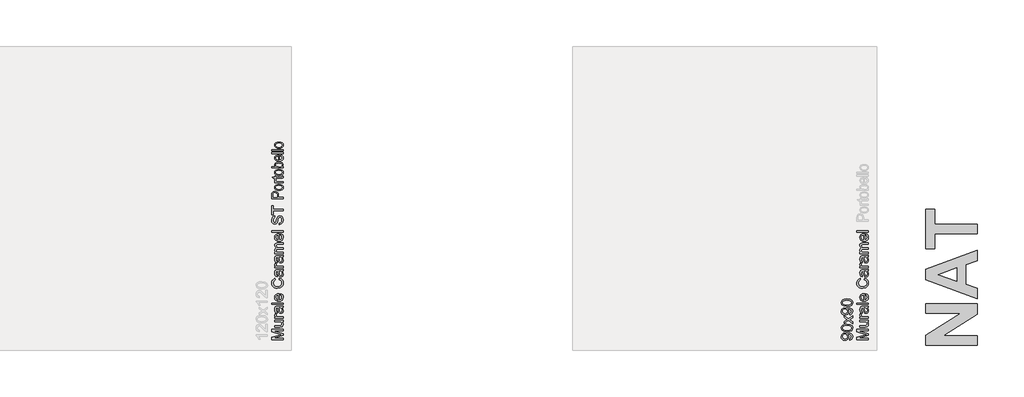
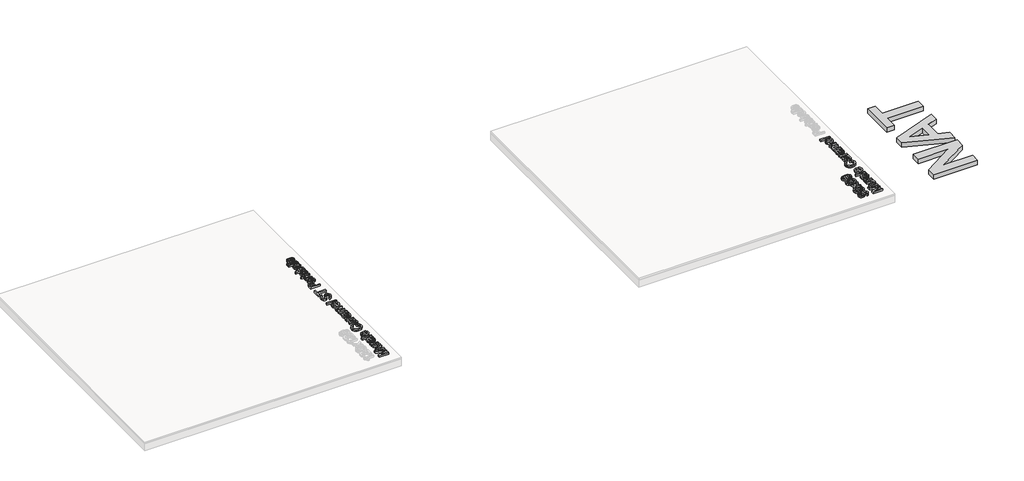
# One storey, part 16 of 21: 5 proxies.
"""IFC4 building model written with IfcOpenShell, lengths in millimetres."""

from ifc_helpers import new_model, si_unit, frame, origin, origin_with_axes, place, context, project, spatial, polyline, outline, extrude, element, save

model = new_model("IFC4")

# Units and contexts
model_context = context("Model", 3, world=origin())
ifc_project = project(units=[si_unit("LENGTHUNIT", "METRE", prefix="MILLI")], contexts=[model_context])

# Site, building, storey
site = spatial("IfcSite", under=ifc_project)
building = spatial("IfcBuilding", under=site)
storey = spatial("IfcBuildingStorey", under=building, Name="PORTOBELLO - SHOWROOM", Elevation=0.0)

# Proxies
placement = place(None, origin())
element("IfcBuildingElementProxy", 1, Name="10mm Arial", ObjectType="10mm Arial", at=placement, inside=storey, context=model_context, shape_type="SweptSolid", body=[
    extrude(outline(polyline([(28359.4625095, 29269.8696803), (28259.0061994, 29269.8696803), (28259.0061994, 29291.4030397), (28329.8112207, 29312.0044314), (28344.6000769, 29316.1737607), (28328.5849474, 29320.6619211), (28259.0061994, 29340.8709053), (28259.0061994, 29362.4778412), (28359.4625095, 29362.4778412), (28359.4625095, 29349.9208024), (28271.5632382, 29349.9208024), (28359.4625095, 29324.6840975), (28359.4625095, 29307.6879494), (28271.5632382, 29282.426719), (28359.4625095, 29282.426719), (28359.4625095, 29269.8696803)])), frame((0.0, 0.0, 18.0), z_axis=(0.0, 0.0, 1.0), x_axis=(1.0, 0.0, 0.0)), (0.0, 0.0, 1.0), 20.0),
    extrude(outline(polyline([(28359.4625095, 29429.9719246), (28346.7828434, 29429.9719246), (28357.4698154, 29420.1372126), (28361.0321394, 29407.3103937), (28358.5305418, 29395.5013816), (28352.2520224, 29387.3589268), (28343.0059216, 29383.6187932), (28331.3317996, 29382.8830292), (28285.6899068, 29382.8830292), (28285.6899068, 29395.4400679), (28325.4211622, 29395.4400679), (28338.2234557, 29396.2003574), (28345.7405111, 29401.1667643), (28348.4751006, 29410.5232297), (28345.6791974, 29421.0078666), (28338.0640401, 29427.9363109), (28324.0722616, 29429.9719246), (28285.6899068, 29429.9719246), (28285.6899068, 29442.5289633), (28359.4625095, 29442.5289633), (28359.4625095, 29429.9719246)])), frame((0.0, 0.0, 18.0), z_axis=(0.0, 0.0, 1.0), x_axis=(1.0, 0.0, 0.0)), (0.0, 0.0, 1.0), 20.0),
    extrude(outline(polyline([(28359.4625095, 29459.7948916), (28285.6899068, 29459.7948916), (28285.6899068, 29470.7823006), (28296.6037393, 29470.7823006), (28286.5482981, 29478.5813989), (28284.1202769, 29486.4295481), (28287.9953006, 29499.0356378), (28299.2524897, 29494.841783), (28296.6773157, 29486.0126152), (28299.1543878, 29478.9124927), (28306.0215184, 29474.3875441), (28320.6877472, 29472.3519304), (28359.4625095, 29472.3519304), (28359.4625095, 29459.7948916)])), frame((0.0, 0.0, 18.0), z_axis=(0.0, 0.0, 1.0), x_axis=(1.0, 0.0, 0.0)), (0.0, 0.0, 1.0), 20.0),
    extrude(outline(polyline([(28350.0447305, 29553.9726824), (28358.5550673, 29541.7957884), (28361.0321394, 29528.3435701), (28359.5422173, 29517.8497362), (28355.0724511, 29510.1088858), (28348.2850282, 29505.335617), (28339.8421365, 29503.7445273), (28329.9093226, 29506.148023), (28322.6988355, 29512.4633306), (28318.5785571, 29521.2557103), (28316.6900962, 29532.1204919), (28312.3736142, 29553.899106), (28309.577711, 29553.9726824), (28300.3070847, 29550.5145916), (28296.6773157, 29536.6331777), (28299.0930741, 29523.9289861), (28307.6647246, 29517.8711959), (28306.0950948, 29505.3141572), (28293.8323616, 29510.746548), (28286.6464, 29521.684906), (28284.1202769, 29538.2518585), (28286.3520944, 29553.4699103), (28291.9561634, 29562.0660863), (28300.478763, 29565.9165845), (28311.4661719, 29566.5297212), (28327.088894, 29566.5297212), (28348.9042963, 29567.1673833), (28359.4625095, 29569.6689809), (28359.4625095, 29557.1119421), (28350.0447305, 29553.9726824)]), holes=[polyline([(28324.9306529, 29553.9726824), (28328.7811511, 29533.7146472), (28330.8167648, 29522.9111793), (28334.1277028, 29518.0183487), (28338.9592197, 29516.3015661), (28345.7527738, 29520.0416997), (28348.4751006, 29531.0168459), (28345.470731, 29543.7210375), (28338.1989302, 29551.9125432), (28328.4868455, 29553.899106), (28324.9306529, 29553.9726824)])]), frame((0.0, 0.0, 18.0), z_axis=(0.0, 0.0, 1.0), x_axis=(1.0, 0.0, 0.0)), (0.0, 0.0, 1.0), 20.0),
    extrude(outline(polyline([(28359.4625095, 29583.7956495), (28259.0061994, 29583.7956495), (28259.0061994, 29596.3526882), (28359.4625095, 29596.3526882), (28359.4625095, 29583.7956495)])), frame((0.0, 0.0, 18.0), z_axis=(0.0, 0.0, 1.0), x_axis=(1.0, 0.0, 0.0)), (0.0, 0.0, 1.0), 20.0),
    extrude(outline(polyline([(28337.4876917, 29666.8388785), (28339.0573215, 29679.1506626), (28348.3340792, 29674.7146189), (28355.2686548, 29667.6359562), (28359.5912682, 29658.07409), (28361.0321394, 29646.1884359), (28358.5458702, 29631.454762), (28351.0870628, 29620.1178651), (28339.140095, 29612.8889839), (28323.1893448, 29610.4793569), (28306.7021001, 29612.9135094), (28294.3719219, 29620.215967), (28286.6831882, 29631.3995797), (28284.1202769, 29645.4771973), (28286.6770568, 29659.1164223), (28294.3473964, 29670.0149264), (28306.6530491, 29677.1610342), (28323.1157684, 29679.5430701), (28326.5002828, 29679.4694937), (28326.5002828, 29623.0363956), (28335.8996677, 29625.2099651), (28342.8097179, 29630.2591455), (28347.0587549, 29637.5462747), (28348.4751006, 29646.4336905), (28345.8508757, 29658.7454746), (28337.4876917, 29666.8388785)]), holes=[polyline([(28313.943244, 29623.0363956), (28313.943244, 29666.9860313), (28302.5634276, 29661.9583107), (28298.1488437, 29654.637459), (28296.6773157, 29645.4281464), (28301.3739425, 29629.9648399), (28306.8645813, 29625.0996005), (28313.943244, 29623.0363956)])]), frame((0.0, 0.0, 18.0), z_axis=(0.0, 0.0, 1.0), x_axis=(1.0, 0.0, 0.0)), (0.0, 0.0, 1.0), 20.0),
    extrude(outline(polyline([(28323.7534305, 29803.5438279), (28326.9907921, 29816.1008667), (28341.6232985, 29810.3067253), (28352.3133361, 29801.2139086), (28358.8524386, 29789.2700065), (28361.0321394, 29774.9226087), (28359.3828018, 29760.3575474), (28354.4347889, 29748.7907243), (28346.3597791, 29739.9247682), (28335.3294506, 29733.4623078), (28308.474065, 29728.2015953), (28293.8262302, 29729.6884517), (28281.177221, 29734.1490209), (28270.9286417, 29741.350311), (28263.482097, 29751.0593299), (28258.9479514, 29762.5740364), (28257.4365695, 29775.1923888), (28259.3924755, 29788.9603725), (28265.2601933, 29800.3432546), (28274.6779724, 29808.9854158), (28287.2840621, 29814.5312369), (28290.276169, 29801.9741981), (28274.8373879, 29791.6735022), (28269.9936083, 29774.7018795), (28275.3646854, 29755.056981), (28289.7856596, 29743.9592074), (28308.4495395, 29740.7586341), (28330.0810009, 29744.5478186), (28343.9011011, 29756.3445679), (28348.4751006, 29773.6718099), (28346.9177335, 29784.1533811), (28342.2456322, 29792.8875128), (28334.5078475, 29799.4817976), (28323.7534305, 29803.5438279)])), frame((0.0, 0.0, 18.0), z_axis=(0.0, 0.0, 1.0), x_axis=(1.0, 0.0, 0.0)), (0.0, 0.0, 1.0), 20.0),
    extrude(outline(polyline([(28350.0447305, 29878.8860605), (28358.5550673, 29866.7091665), (28361.0321394, 29853.2569482), (28359.5422173, 29842.7631143), (28355.0724511, 29835.022264), (28348.2850282, 29830.2489951), (28339.8421365, 29828.6579055), (28329.9093226, 29831.0614012), (28322.6988355, 29837.3767088), (28318.5785571, 29846.1690884), (28316.6900962, 29857.03387), (28312.3736142, 29878.8124841), (28309.577711, 29878.8860605), (28300.3070847, 29875.4279698), (28296.6773157, 29861.5465558), (28299.0930741, 29848.8423643), (28307.6647246, 29842.7845741), (28306.0950948, 29830.2275353), (28293.8323616, 29835.6599261), (28286.6464, 29846.5982841), (28284.1202769, 29863.1652366), (28286.3520944, 29878.3832885), (28291.9561634, 29886.9794644), (28300.478763, 29890.8299627), (28311.4661719, 29891.4430993), (28327.088894, 29891.4430993), (28348.9042963, 29892.0807614), (28359.4625095, 29894.582359), (28359.4625095, 29882.0253202), (28350.0447305, 29878.8860605)]), holes=[polyline([(28324.9306529, 29878.8860605), (28328.7811511, 29858.6280253), (28330.8167648, 29847.8245574), (28334.1277028, 29842.9317269), (28338.9592197, 29841.2149442), (28345.7527738, 29844.9550779), (28348.4751006, 29855.930224), (28345.470731, 29868.6344156), (28338.1989302, 29876.8259214), (28328.4868455, 29878.8124841), (28324.9306529, 29878.8860605)])]), frame((0.0, 0.0, 18.0), z_axis=(0.0, 0.0, 1.0), x_axis=(1.0, 0.0, 0.0)), (0.0, 0.0, 1.0), 20.0),
    extrude(outline(polyline([(28359.4625095, 29908.7090276), (28285.6899068, 29908.7090276), (28285.6899068, 29919.6964365), (28296.6037393, 29919.6964365), (28286.5482981, 29927.4955348), (28284.1202769, 29935.3436841), (28287.9953006, 29947.9497738), (28299.2524897, 29943.755919), (28296.6773157, 29934.9267511), (28299.1543878, 29927.8266286), (28306.0215184, 29923.3016801), (28320.6877472, 29921.2660664), (28359.4625095, 29921.2660664), (28359.4625095, 29908.7090276)])), frame((0.0, 0.0, 18.0), z_axis=(0.0, 0.0, 1.0), x_axis=(1.0, 0.0, 0.0)), (0.0, 0.0, 1.0), 20.0),
    extrude(outline(polyline([(28350.0447305, 30002.8868184), (28358.5550673, 29990.7099243), (28361.0321394, 29977.2577061), (28359.5422173, 29966.7638721), (28355.0724511, 29959.0230218), (28348.2850282, 29954.2497529), (28339.8421365, 29952.6586633), (28329.9093226, 29955.062159), (28322.6988355, 29961.3774666), (28318.5785571, 29970.1698463), (28316.6900962, 29981.0346279), (28312.3736142, 30002.813242), (28309.577711, 30002.8868184), (28300.3070847, 29999.4287276), (28296.6773157, 29985.5473137), (28299.0930741, 29972.8431221), (28307.6647246, 29966.7853319), (28306.0950948, 29954.2282932), (28293.8323616, 29959.6606839), (28286.6464, 29970.5990419), (28284.1202769, 29987.1659945), (28286.3520944, 30002.3840463), (28291.9561634, 30010.9802223), (28300.478763, 30014.8307205), (28311.4661719, 30015.4438571), (28327.088894, 30015.4438571), (28348.9042963, 30016.0815193), (28359.4625095, 30018.5831168), (28359.4625095, 30006.0260781), (28350.0447305, 30002.8868184)]), holes=[polyline([(28324.9306529, 30002.8868184), (28328.7811511, 29982.6287832), (28330.8167648, 29971.8253153), (28334.1277028, 29966.9324847), (28338.9592197, 29965.2157021), (28345.7527738, 29968.9558357), (28348.4751006, 29979.9309819), (28345.470731, 29992.6351734), (28338.1989302, 30000.8266792), (28328.4868455, 30002.813242), (28324.9306529, 30002.8868184)])]), frame((0.0, 0.0, 18.0), z_axis=(0.0, 0.0, 1.0), x_axis=(1.0, 0.0, 0.0)), (0.0, 0.0, 1.0), 20.0),
    extrude(outline(polyline([(28359.4625095, 30032.7097855), (28285.6899068, 30032.7097855), (28285.6899068, 30045.2668242), (28297.8300126, 30045.2668242), (28287.884936, 30053.8997884), (28284.1202769, 30066.187047), (28287.9585124, 30078.7686113), (28298.7129294, 30085.6847928), (28287.76844, 30095.4827166), (28284.1202769, 30107.8558143), (28285.6377902, 30117.2950532), (28290.1903298, 30124.2756141), (28297.9005233, 30128.5890304), (28308.8909979, 30130.0268359), (28359.4625095, 30130.0268359), (28359.4625095, 30117.4697971), (28314.2866005, 30117.4697971), (28303.8019637, 30116.3048375), (28298.639353, 30112.0864573), (28296.6773157, 30104.9127584), (28301.7050363, 30092.5641861), (28308.2472044, 30088.8761691), (28317.8182677, 30087.6468301), (28359.4625095, 30087.6468301), (28359.4625095, 30075.0897913), (28312.8886489, 30075.0897913), (28300.7240176, 30072.1835235), (28296.6773157, 30062.6553799), (28299.375117, 30053.3602281), (28307.2723172, 30047.1798106), (28322.2573771, 30045.2668242), (28359.4625095, 30045.2668242), (28359.4625095, 30032.7097855)])), frame((0.0, 0.0, 18.0), z_axis=(0.0, 0.0, 1.0), x_axis=(1.0, 0.0, 0.0)), (0.0, 0.0, 1.0), 20.0),
    extrude(outline(polyline([(28337.4876917, 30200.5130262), (28339.0573215, 30212.8248103), (28348.3340792, 30208.3887666), (28355.2686548, 30201.3101038), (28359.5912682, 30191.7482377), (28361.0321394, 30179.8625835), (28358.5458702, 30165.1289096), (28351.0870628, 30153.7920128), (28339.140095, 30146.5631316), (28323.1893448, 30144.1535045), (28306.7021001, 30146.5876571), (28294.3719219, 30153.8901147), (28286.6831882, 30165.0737273), (28284.1202769, 30179.151345), (28286.6770568, 30192.79057), (28294.3473964, 30203.6890741), (28306.6530491, 30210.8351818), (28323.1157684, 30213.2172178), (28326.5002828, 30213.1436414), (28326.5002828, 30156.7105433), (28335.8996677, 30158.8841128), (28342.8097179, 30163.9332931), (28347.0587549, 30171.2204223), (28348.4751006, 30180.1078382), (28345.8508757, 30192.4196223), (28337.4876917, 30200.5130262)]), holes=[polyline([(28313.943244, 30156.7105433), (28313.943244, 30200.660179), (28302.5634276, 30195.6324584), (28298.1488437, 30188.3116067), (28296.6773157, 30179.1022941), (28301.3739425, 30163.6389875), (28306.8645813, 30158.7737482), (28313.943244, 30156.7105433)])]), frame((0.0, 0.0, 18.0), z_axis=(0.0, 0.0, 1.0), x_axis=(1.0, 0.0, 0.0)), (0.0, 0.0, 1.0), 20.0),
    extrude(outline(polyline([(28359.4625095, 30225.7742565), (28259.0061994, 30225.7742565), (28259.0061994, 30238.3312953), (28359.4625095, 30238.3312953), (28359.4625095, 30225.7742565)])), frame((0.0, 0.0, 18.0), z_axis=(0.0, 0.0, 1.0), x_axis=(1.0, 0.0, 0.0)), (0.0, 0.0, 1.0), 20.0),
])
element("IfcBuildingElementProxy", 2, Name="10mm Arial", ObjectType="10mm Arial", at=placement, inside=storey, context=model_context, shape_type="SweptSolid", body=[
    extrude(outline(polyline([(28194.348432, 29266.7304206), (28192.7788021, 29279.2874593), (28204.7594925, 29284.9283166), (28208.4751006, 29295.6214199), (28206.0838676, 29305.7872257), (28199.6949837, 29312.6788818), (28188.7811511, 29316.7868974), (28174.2130241, 29318.6017819), (28171.7604775, 29318.5282055), (28181.2763584, 29308.485027), (28184.9306529, 29294.7139777), (28182.6988355, 29283.2636506), (28176.0033832, 29273.7324412), (28165.6597677, 29267.3037033), (28152.4834609, 29265.1607907), (28138.8718271, 29267.4079366), (28128.2032493, 29274.1493741), (28121.3054619, 29284.2753261), (28119.0061994, 29296.676015), (28124.2546492, 29314.5673427), (28139.2151837, 29326.8791268), (28167.3213681, 29331.0852443), (28197.8187855, 29326.8913895), (28207.8098473, 29321.6766622), (28215.0969765, 29314.4201899), (28219.5483487, 29305.4346721), (28221.0321394, 29295.0328087), (28219.2816342, 29284.2967858), (28214.0301187, 29275.7312667), (28205.6086867, 29269.7409216), (28194.348432, 29266.7304206)]), holes=[polyline([(28152.1891553, 29318.5282055), (28143.6788185, 29317.1731735), (28137.130519, 29313.1080774), (28132.9550584, 29306.7989012), (28131.5632382, 29298.7116287), (28133.0623573, 29290.3239192), (28137.5597147, 29283.6039414), (28144.4421737, 29279.1893575), (28153.0965976, 29277.7178295), (28160.855842, 29279.1096497), (28167.0147998, 29283.2851103), (28171.0339106, 29289.8395412), (28172.3736142, 29298.3682722), (28167.0147998, 29312.85056), (28160.6289815, 29317.1087941), (28152.1891553, 29318.5282055)])]), frame((0.0, 0.0, 18.0), z_axis=(0.0, 0.0, 1.0), x_axis=(1.0, 0.0, 0.0)), (0.0, 0.0, 1.0), 20.0),
    extrude(outline(polyline([(28170.0436948, 29342.0726532), (28141.1404328, 29345.7637359), (28124.4753784, 29356.7266193), (28119.0061994, 29375.0348799), (28122.2435609, 29389.7011088), (28131.5755009, 29399.8301264), (28146.4379335, 29405.7162383), (28170.0436948, 29407.9971067), (28198.8243296, 29404.3428122), (28215.5261722, 29393.416717), (28219.6556476, 29385.1853573), (28221.0321394, 29375.0348799), (28218.6409064, 29361.9873319), (28211.4672075, 29352.0790434), (28194.4771907, 29344.5742507), (28170.0436948, 29342.0726532)]), holes=[polyline([(28170.0191694, 29354.6296919), (28189.7713668, 29356.1012199), (28201.2032998, 29360.5158039), (28206.6571504, 29367.0886289), (28208.4751006, 29375.0348799), (28206.6510191, 29382.981131), (28201.1787744, 29389.553956), (28189.74071, 29393.96854), (28170.0191694, 29395.4400679), (28150.711496, 29394.0175909), (28139.1906582, 29389.7501598), (28133.4700932, 29383.1895975), (28131.5632382, 29374.8877271), (28133.2432326, 29367.0273152), (28138.2832159, 29360.7120076), (28150.5214236, 29356.1502709), (28170.0191694, 29354.6296919)])]), frame((0.0, 0.0, 18.0), z_axis=(0.0, 0.0, 1.0), x_axis=(1.0, 0.0, 0.0)), (0.0, 0.0, 1.0), 20.0),
    extrude(outline(polyline([(28219.4625095, 29414.2756261), (28182.355479, 29441.1064863), (28145.6899068, 29415.8452559), (28145.6899068, 29430.9038923), (28163.372768, 29443.0930491), (28171.6869011, 29448.8074827), (28164.8688214, 29453.7616269), (28145.6899068, 29467.6430409), (28145.6899068, 29482.7507281), (28182.3800044, 29456.2141735), (28219.4625095, 29481.7697095), (28219.4625095, 29466.6865477), (28197.1443352, 29451.2845548), (28193.0485823, 29448.4886516), (28219.4625095, 29429.3833134), (28219.4625095, 29414.2756261)])), frame((0.0, 0.0, 18.0), z_axis=(0.0, 0.0, 1.0), x_axis=(1.0, 0.0, 0.0)), (0.0, 0.0, 1.0), 20.0),
    extrude(outline(polyline([(28194.348432, 29491.1874886), (28192.7788021, 29503.7445273), (28204.7594925, 29509.3853846), (28208.4751006, 29520.0784879), (28206.0838676, 29530.2442937), (28199.6949837, 29537.1359498), (28188.7811511, 29541.2439654), (28174.2130241, 29543.0588499), (28171.7604775, 29542.9852735), (28181.2763584, 29532.942095), (28184.9306529, 29519.1710457), (28182.6988355, 29507.7207186), (28176.0033832, 29498.1895092), (28165.6597677, 29491.7607713), (28152.4834609, 29489.6178587), (28138.8718271, 29491.8650046), (28128.2032493, 29498.6064421), (28121.3054619, 29508.732394), (28119.0061994, 29521.133083), (28124.2546492, 29539.0244107), (28139.2151837, 29551.3361948), (28167.3213681, 29555.5423122), (28197.8187855, 29551.3484575), (28207.8098473, 29546.1337302), (28215.0969765, 29538.8772579), (28219.5483487, 29529.8917401), (28221.0321394, 29519.4898767), (28219.2816342, 29508.7538538), (28214.0301187, 29500.1883347), (28205.6086867, 29494.1979896), (28194.348432, 29491.1874886)]), holes=[polyline([(28152.1891553, 29542.9852735), (28143.6788185, 29541.6302415), (28137.130519, 29537.5651454), (28132.9550584, 29531.2559692), (28131.5632382, 29523.1686967), (28133.0623573, 29514.7809872), (28137.5597147, 29508.0610094), (28144.4421737, 29503.6464255), (28153.0965976, 29502.1748975), (28160.855842, 29503.5667177), (28167.0147998, 29507.7421783), (28171.0339106, 29514.2966092), (28172.3736142, 29522.8253401), (28167.0147998, 29537.307628), (28160.6289815, 29541.5658621), (28152.1891553, 29542.9852735)])]), frame((0.0, 0.0, 18.0), z_axis=(0.0, 0.0, 1.0), x_axis=(1.0, 0.0, 0.0)), (0.0, 0.0, 1.0), 20.0),
    extrude(outline(polyline([(28170.0436948, 29566.5297212), (28141.1404328, 29570.2208039), (28124.4753784, 29581.1836873), (28119.0061994, 29599.4919479), (28122.2435609, 29614.1581768), (28131.5755009, 29624.2871944), (28146.4379335, 29630.1733063), (28170.0436948, 29632.4541747), (28198.8243296, 29628.7998802), (28215.5261722, 29617.873785), (28219.6556476, 29609.6424253), (28221.0321394, 29599.4919479), (28218.6409064, 29586.4443998), (28211.4672075, 29576.5361114), (28194.4771907, 29569.0313187), (28170.0436948, 29566.5297212)]), holes=[polyline([(28170.0191694, 29579.0867599), (28189.7713668, 29580.5582879), (28201.2032998, 29584.9728719), (28206.6571504, 29591.5456968), (28208.4751006, 29599.4919479), (28206.6510191, 29607.438199), (28201.1787744, 29614.011024), (28189.74071, 29618.425608), (28170.0191694, 29619.8971359), (28150.711496, 29618.4746589), (28139.1906582, 29614.2072277), (28133.4700932, 29607.6466655), (28131.5632382, 29599.3447951), (28133.2432326, 29591.4843832), (28138.2832159, 29585.1690756), (28150.5214236, 29580.6073389), (28170.0191694, 29579.0867599)])]), frame((0.0, 0.0, 18.0), z_axis=(0.0, 0.0, 1.0), x_axis=(1.0, 0.0, 0.0)), (0.0, 0.0, 1.0), 20.0),
])
element("IfcBuildingElementProxy", 3, Name="10mm Arial", ObjectType="10mm Arial", at=placement, inside=storey, context=model_context, shape_type="SweptSolid", body=[
    extrude(outline(polyline([(23159.4374935, 29269.8696803), (23058.9811833, 29269.8696803), (23058.9811833, 29291.4030397), (23129.7862046, 29312.0044314), (23144.5750608, 29316.1737607), (23128.5599313, 29320.6619211), (23058.9811833, 29340.8709053), (23058.9811833, 29362.4778412), (23159.4374935, 29362.4778412), (23159.4374935, 29349.9208024), (23071.5382221, 29349.9208024), (23159.4374935, 29324.6840975), (23159.4374935, 29307.6879494), (23071.5382221, 29282.426719), (23159.4374935, 29282.426719), (23159.4374935, 29269.8696803)])), frame((0.0, 0.0, 17.0), z_axis=(0.0, 0.0, 1.0), x_axis=(1.0, 0.0, 0.0)), (0.0, 0.0, 1.0), 20.0),
    extrude(outline(polyline([(23159.4374935, 29429.9719246), (23146.7578274, 29429.9719246), (23157.4447993, 29420.1372126), (23161.0071233, 29407.3103937), (23158.5055257, 29395.5013816), (23152.2270063, 29387.3589268), (23142.9809055, 29383.6187932), (23131.3067836, 29382.8830292), (23085.6648907, 29382.8830292), (23085.6648907, 29395.4400679), (23125.3961462, 29395.4400679), (23138.1984396, 29396.2003574), (23145.715495, 29401.1667643), (23148.4500845, 29410.5232297), (23145.6541814, 29421.0078666), (23138.0390241, 29427.9363109), (23124.0472455, 29429.9719246), (23085.6648907, 29429.9719246), (23085.6648907, 29442.5289633), (23159.4374935, 29442.5289633), (23159.4374935, 29429.9719246)])), frame((0.0, 0.0, 17.0), z_axis=(0.0, 0.0, 1.0), x_axis=(1.0, 0.0, 0.0)), (0.0, 0.0, 1.0), 20.0),
    extrude(outline(polyline([(23159.4374935, 29459.7948916), (23085.6648907, 29459.7948916), (23085.6648907, 29470.7823006), (23096.5787232, 29470.7823006), (23086.523282, 29478.5813989), (23084.0952608, 29486.4295481), (23087.9702845, 29499.0356378), (23099.2274736, 29494.841783), (23096.6522996, 29486.0126152), (23099.1293717, 29478.9124927), (23105.9965023, 29474.3875441), (23120.6627312, 29472.3519304), (23159.4374935, 29472.3519304), (23159.4374935, 29459.7948916)])), frame((0.0, 0.0, 17.0), z_axis=(0.0, 0.0, 1.0), x_axis=(1.0, 0.0, 0.0)), (0.0, 0.0, 1.0), 20.0),
    extrude(outline(polyline([(23150.0197144, 29553.9726824), (23158.5300512, 29541.7957884), (23161.0071233, 29528.3435701), (23159.5172012, 29517.8497362), (23155.047435, 29510.1088858), (23148.2600122, 29505.335617), (23139.8171204, 29503.7445273), (23129.8843065, 29506.148023), (23122.6738194, 29512.4633306), (23118.5535411, 29521.2557103), (23116.6650801, 29532.1204919), (23112.3485981, 29553.899106), (23109.5526949, 29553.9726824), (23100.2820686, 29550.5145916), (23096.6522996, 29536.6331777), (23099.068058, 29523.9289861), (23107.6397085, 29517.8711959), (23106.0700787, 29505.3141572), (23093.8073455, 29510.746548), (23086.6213839, 29521.684906), (23084.0952608, 29538.2518585), (23086.3270783, 29553.4699103), (23091.9311473, 29562.0660863), (23100.4537469, 29565.9165845), (23111.4411558, 29566.5297212), (23127.0638779, 29566.5297212), (23148.8792802, 29567.1673833), (23159.4374935, 29569.6689809), (23159.4374935, 29557.1119421), (23150.0197144, 29553.9726824)]), holes=[polyline([(23124.9056368, 29553.9726824), (23128.7561351, 29533.7146472), (23130.7917488, 29522.9111793), (23134.1026867, 29518.0183487), (23138.9342036, 29516.3015661), (23145.7277578, 29520.0416997), (23148.4500845, 29531.0168459), (23145.4457149, 29543.7210375), (23138.1739141, 29551.9125432), (23128.4618295, 29553.899106), (23124.9056368, 29553.9726824)])]), frame((0.0, 0.0, 17.0), z_axis=(0.0, 0.0, 1.0), x_axis=(1.0, 0.0, 0.0)), (0.0, 0.0, 1.0), 20.0),
    extrude(outline(polyline([(23159.4374935, 29583.7956495), (23058.9811833, 29583.7956495), (23058.9811833, 29596.3526882), (23159.4374935, 29596.3526882), (23159.4374935, 29583.7956495)])), frame((0.0, 0.0, 17.0), z_axis=(0.0, 0.0, 1.0), x_axis=(1.0, 0.0, 0.0)), (0.0, 0.0, 1.0), 20.0),
    extrude(outline(polyline([(23137.4626756, 29666.8388785), (23139.0323055, 29679.1506626), (23148.3090631, 29674.7146189), (23155.2436387, 29667.6359562), (23159.5662521, 29658.07409), (23161.0071233, 29646.1884359), (23158.5208541, 29631.454762), (23151.0620467, 29620.1178651), (23139.1150789, 29612.8889839), (23123.1643287, 29610.4793569), (23106.677084, 29612.9135094), (23094.3469058, 29620.215967), (23086.6581721, 29631.3995797), (23084.0952608, 29645.4771973), (23086.6520407, 29659.1164223), (23094.3223803, 29670.0149264), (23106.628033, 29677.1610342), (23123.0907523, 29679.5430701), (23126.4752667, 29679.4694937), (23126.4752667, 29623.0363956), (23135.8746517, 29625.2099651), (23142.7847018, 29630.2591455), (23147.0337388, 29637.5462747), (23148.4500845, 29646.4336905), (23145.8258596, 29658.7454746), (23137.4626756, 29666.8388785)]), holes=[polyline([(23113.9182279, 29623.0363956), (23113.9182279, 29666.9860313), (23102.5384115, 29661.9583107), (23098.1238276, 29654.637459), (23096.6522996, 29645.4281464), (23101.3489264, 29629.9648399), (23106.8395652, 29625.0996005), (23113.9182279, 29623.0363956)])]), frame((0.0, 0.0, 17.0), z_axis=(0.0, 0.0, 1.0), x_axis=(1.0, 0.0, 0.0)), (0.0, 0.0, 1.0), 20.0),
    extrude(outline(polyline([(23123.7284145, 29803.5438279), (23126.965776, 29816.1008667), (23141.5982824, 29810.3067253), (23152.28832, 29801.2139086), (23158.8274225, 29789.2700065), (23161.0071233, 29774.9226087), (23159.3577857, 29760.3575474), (23154.4097729, 29748.7907243), (23146.3347631, 29739.9247682), (23135.3044346, 29733.4623078), (23108.4490489, 29728.2015953), (23093.8012141, 29729.6884517), (23081.1522049, 29734.1490209), (23070.9036256, 29741.350311), (23063.4570809, 29751.0593299), (23058.9229353, 29762.5740364), (23057.4115535, 29775.1923888), (23059.3674594, 29788.9603725), (23065.2351772, 29800.3432546), (23074.6529563, 29808.9854158), (23087.259046, 29814.5312369), (23090.2511529, 29801.9741981), (23074.8123718, 29791.6735022), (23069.9685922, 29774.7018795), (23075.3396694, 29755.056981), (23089.7606436, 29743.9592074), (23108.4245235, 29740.7586341), (23130.0559848, 29744.5478186), (23143.8760851, 29756.3445679), (23148.4500845, 29773.6718099), (23146.8927174, 29784.1533811), (23142.2206161, 29792.8875128), (23134.4828314, 29799.4817976), (23123.7284145, 29803.5438279)])), frame((0.0, 0.0, 17.0), z_axis=(0.0, 0.0, 1.0), x_axis=(1.0, 0.0, 0.0)), (0.0, 0.0, 1.0), 20.0),
    extrude(outline(polyline([(23150.0197144, 29878.8860605), (23158.5300512, 29866.7091665), (23161.0071233, 29853.2569482), (23159.5172012, 29842.7631143), (23155.047435, 29835.022264), (23148.2600122, 29830.2489951), (23139.8171204, 29828.6579055), (23129.8843065, 29831.0614012), (23122.6738194, 29837.3767088), (23118.5535411, 29846.1690884), (23116.6650801, 29857.03387), (23112.3485981, 29878.8124841), (23109.5526949, 29878.8860605), (23100.2820686, 29875.4279698), (23096.6522996, 29861.5465558), (23099.068058, 29848.8423643), (23107.6397085, 29842.7845741), (23106.0700787, 29830.2275353), (23093.8073455, 29835.6599261), (23086.6213839, 29846.5982841), (23084.0952608, 29863.1652366), (23086.3270783, 29878.3832885), (23091.9311473, 29886.9794644), (23100.4537469, 29890.8299627), (23111.4411558, 29891.4430993), (23127.0638779, 29891.4430993), (23148.8792802, 29892.0807614), (23159.4374935, 29894.582359), (23159.4374935, 29882.0253202), (23150.0197144, 29878.8860605)]), holes=[polyline([(23124.9056368, 29878.8860605), (23128.7561351, 29858.6280253), (23130.7917488, 29847.8245574), (23134.1026867, 29842.9317269), (23138.9342036, 29841.2149442), (23145.7277578, 29844.9550779), (23148.4500845, 29855.930224), (23145.4457149, 29868.6344156), (23138.1739141, 29876.8259214), (23128.4618295, 29878.8124841), (23124.9056368, 29878.8860605)])]), frame((0.0, 0.0, 17.0), z_axis=(0.0, 0.0, 1.0), x_axis=(1.0, 0.0, 0.0)), (0.0, 0.0, 1.0), 20.0),
    extrude(outline(polyline([(23159.4374935, 29908.7090276), (23085.6648907, 29908.7090276), (23085.6648907, 29919.6964365), (23096.5787232, 29919.6964365), (23086.523282, 29927.4955348), (23084.0952608, 29935.3436841), (23087.9702845, 29947.9497738), (23099.2274736, 29943.755919), (23096.6522996, 29934.9267511), (23099.1293717, 29927.8266286), (23105.9965023, 29923.3016801), (23120.6627312, 29921.2660664), (23159.4374935, 29921.2660664), (23159.4374935, 29908.7090276)])), frame((0.0, 0.0, 17.0), z_axis=(0.0, 0.0, 1.0), x_axis=(1.0, 0.0, 0.0)), (0.0, 0.0, 1.0), 20.0),
    extrude(outline(polyline([(23150.0197144, 30002.8868184), (23158.5300512, 29990.7099243), (23161.0071233, 29977.2577061), (23159.5172012, 29966.7638721), (23155.047435, 29959.0230218), (23148.2600122, 29954.2497529), (23139.8171204, 29952.6586633), (23129.8843065, 29955.062159), (23122.6738194, 29961.3774666), (23118.5535411, 29970.1698463), (23116.6650801, 29981.0346279), (23112.3485981, 30002.813242), (23109.5526949, 30002.8868184), (23100.2820686, 29999.4287276), (23096.6522996, 29985.5473137), (23099.068058, 29972.8431221), (23107.6397085, 29966.7853319), (23106.0700787, 29954.2282932), (23093.8073455, 29959.6606839), (23086.6213839, 29970.5990419), (23084.0952608, 29987.1659945), (23086.3270783, 30002.3840463), (23091.9311473, 30010.9802223), (23100.4537469, 30014.8307205), (23111.4411558, 30015.4438571), (23127.0638779, 30015.4438571), (23148.8792802, 30016.0815193), (23159.4374935, 30018.5831168), (23159.4374935, 30006.0260781), (23150.0197144, 30002.8868184)]), holes=[polyline([(23124.9056368, 30002.8868184), (23128.7561351, 29982.6287832), (23130.7917488, 29971.8253153), (23134.1026867, 29966.9324847), (23138.9342036, 29965.2157021), (23145.7277578, 29968.9558357), (23148.4500845, 29979.9309819), (23145.4457149, 29992.6351734), (23138.1739141, 30000.8266792), (23128.4618295, 30002.813242), (23124.9056368, 30002.8868184)])]), frame((0.0, 0.0, 17.0), z_axis=(0.0, 0.0, 1.0), x_axis=(1.0, 0.0, 0.0)), (0.0, 0.0, 1.0), 20.0),
    extrude(outline(polyline([(23159.4374935, 30032.7097855), (23085.6648907, 30032.7097855), (23085.6648907, 30045.2668242), (23097.8049965, 30045.2668242), (23087.8599199, 30053.8997884), (23084.0952608, 30066.187047), (23087.9334963, 30078.7686113), (23098.6879133, 30085.6847928), (23087.743424, 30095.4827166), (23084.0952608, 30107.8558143), (23085.6127741, 30117.2950532), (23090.1653138, 30124.2756141), (23097.8755072, 30128.5890304), (23108.8659818, 30130.0268359), (23159.4374935, 30130.0268359), (23159.4374935, 30117.4697971), (23114.2615844, 30117.4697971), (23103.7769476, 30116.3048375), (23098.6143369, 30112.0864573), (23096.6522996, 30104.9127584), (23101.6800202, 30092.5641861), (23108.2221884, 30088.8761691), (23117.7932516, 30087.6468301), (23159.4374935, 30087.6468301), (23159.4374935, 30075.0897913), (23112.8636329, 30075.0897913), (23100.6990016, 30072.1835235), (23096.6522996, 30062.6553799), (23099.3501009, 30053.3602281), (23107.2473011, 30047.1798106), (23122.232361, 30045.2668242), (23159.4374935, 30045.2668242), (23159.4374935, 30032.7097855)])), frame((0.0, 0.0, 17.0), z_axis=(0.0, 0.0, 1.0), x_axis=(1.0, 0.0, 0.0)), (0.0, 0.0, 1.0), 20.0),
    extrude(outline(polyline([(23137.4626756, 30200.5130262), (23139.0323055, 30212.8248103), (23148.3090631, 30208.3887666), (23155.2436387, 30201.3101038), (23159.5662521, 30191.7482377), (23161.0071233, 30179.8625835), (23158.5208541, 30165.1289096), (23151.0620467, 30153.7920128), (23139.1150789, 30146.5631316), (23123.1643287, 30144.1535045), (23106.677084, 30146.5876571), (23094.3469058, 30153.8901147), (23086.6581721, 30165.0737273), (23084.0952608, 30179.151345), (23086.6520407, 30192.79057), (23094.3223803, 30203.6890741), (23106.628033, 30210.8351818), (23123.0907523, 30213.2172178), (23126.4752667, 30213.1436414), (23126.4752667, 30156.7105433), (23135.8746517, 30158.8841128), (23142.7847018, 30163.9332931), (23147.0337388, 30171.2204223), (23148.4500845, 30180.1078382), (23145.8258596, 30192.4196223), (23137.4626756, 30200.5130262)]), holes=[polyline([(23113.9182279, 30156.7105433), (23113.9182279, 30200.660179), (23102.5384115, 30195.6324584), (23098.1238276, 30188.3116067), (23096.6522996, 30179.1022941), (23101.3489264, 30163.6389875), (23106.8395652, 30158.7737482), (23113.9182279, 30156.7105433)])]), frame((0.0, 0.0, 17.0), z_axis=(0.0, 0.0, 1.0), x_axis=(1.0, 0.0, 0.0)), (0.0, 0.0, 1.0), 20.0),
    extrude(outline(polyline([(23159.4374935, 30225.7742565), (23058.9811833, 30225.7742565), (23058.9811833, 30238.3312953), (23159.4374935, 30238.3312953), (23159.4374935, 30225.7742565)])), frame((0.0, 0.0, 17.0), z_axis=(0.0, 0.0, 1.0), x_axis=(1.0, 0.0, 0.0)), (0.0, 0.0, 1.0), 20.0),
    extrude(outline(polyline([(23124.9056368, 30293.2683399), (23124.9056368, 30305.8253787), (23137.4749383, 30309.8720806), (23145.4211894, 30319.7558436), (23148.4500845, 30334.8144799), (23146.1569534, 30347.9356044), (23139.8539086, 30356.409153), (23131.4294109, 30359.1927934), (23123.5935244, 30357.1081288), (23117.8913535, 30348.5732665), (23113.0966248, 30330.2895314), (23106.9039445, 30310.6078446), (23097.5597419, 30299.927004), (23085.0762795, 30296.4075996), (23070.8637717, 30300.7608699), (23060.832856, 30313.4773242), (23057.4115535, 30332.0921531), (23060.9922715, 30351.9577809), (23071.5136966, 30365.2015327), (23087.2345205, 30370.1802024), (23087.2345205, 30357.6231636), (23079.7419906, 30355.3177698), (23074.3341252, 30350.5107784), (23069.9685922, 30332.5826625), (23074.2850743, 30314.6054956), (23084.7083975, 30308.9646384), (23093.414938, 30312.9622894), (23100.4292214, 30333.4655792), (23106.7322663, 30355.6856518), (23116.9103348, 30367.8380203), (23131.1105798, 30371.7498322), (23146.132428, 30367.2494091), (23157.0953114, 30354.2999629), (23161.0071233, 30335.3049892), (23156.7887431, 30312.8764503), (23144.0845515, 30298.688468), (23124.9056368, 30293.2683399)])), frame((0.0, 0.0, 17.0), z_axis=(0.0, 0.0, 1.0), x_axis=(1.0, 0.0, 0.0)), (0.0, 0.0, 1.0), 20.0),
    extrude(outline(polyline([(23159.4374935, 30415.6994679), (23071.5382221, 30415.6994679), (23071.5382221, 30382.7372411), (23058.9811833, 30382.7372411), (23058.9811833, 30461.2187334), (23071.5382221, 30461.2187334), (23071.5382221, 30428.2565067), (23159.4374935, 30428.2565067), (23159.4374935, 30415.6994679)])), frame((0.0, 0.0, 17.0), z_axis=(0.0, 0.0, 1.0), x_axis=(1.0, 0.0, 0.0)), (0.0, 0.0, 1.0), 20.0),
])
element("IfcBuildingElementProxy", 4, Name="10mm Arial Narrow", ObjectType="10mm Arial Narrow", at=placement, inside=storey, context=model_context, shape_type="SweptSolid", body=[
    extrude(outline(polyline([(23159.4374935, 30524.588476), (23058.7188897, 30524.588476), (23058.7188897, 30555.8853607), (23060.5972104, 30572.1810622), (23070.0776536, 30583.6540483), (23087.0967624, 30587.9437267), (23099.172588, 30586.1574183), (23108.7989817, 30580.7984931), (23115.1002401, 30571.0547043), (23117.2006596, 30556.1138051), (23117.2006596, 30534.3354376), (23159.4374935, 30534.3354376), (23159.4374935, 30524.588476)]), holes=[polyline([(23105.8292044, 30534.3354376), (23105.8292044, 30557.3067926), (23101.2983902, 30573.170988), (23087.6297994, 30578.1967651), (23077.464023, 30575.7219506), (23071.6640731, 30569.7443218), (23070.090345, 30557.0783482), (23070.090345, 30534.3354376), (23105.8292044, 30534.3354376)])]), frame((0.0, 0.0, 17.0), z_axis=(0.0, 0.0, 1.0), x_axis=(1.0, 0.0, 0.0)), (0.0, 0.0, 1.0), 20.0),
    extrude(outline(polyline([(23122.8863873, 30596.0661948), (23106.2956117, 30598.0206637), (23094.3435269, 30603.8840703), (23087.1189723, 30612.742637), (23084.7107874, 30623.6825861), (23087.1189723, 30634.4956217), (23094.3435269, 30643.3795711), (23106.1052414, 30649.3191259), (23122.1249059, 30651.2989775), (23139.2867925, 30649.3540271), (23151.4292476, 30643.5191761), (23158.6538022, 30634.6701279), (23161.0619871, 30623.6825861), (23158.6474565, 30612.821958), (23151.4038649, 30603.9475271), (23139.4454344, 30598.0365278), (23122.8863873, 30596.0661948)]), holes=[polyline([(23122.8610045, 30605.8131564), (23135.4127559, 30607.1171933), (23144.284014, 30611.0293039), (23149.5572726, 30616.8705006), (23151.3150254, 30623.961796), (23149.5414084, 30630.6818691), (23144.2205572, 30636.3739424), (23135.333435, 30640.2574975), (23122.8610045, 30641.5520158), (23110.3473272, 30640.247979), (23101.4887605, 30636.3358684), (23096.2155019, 30630.4946716), (23094.4577491, 30623.4033763), (23096.2250205, 30616.6357105), (23101.5268346, 30610.9531557), (23110.3949198, 30607.0981563), (23122.8610045, 30605.8131564)])]), frame((0.0, 0.0, 17.0), z_axis=(0.0, 0.0, 1.0), x_axis=(1.0, 0.0, 0.0)), (0.0, 0.0, 1.0), 20.0),
    extrude(outline(polyline([(23151.3150254, 30722.7766963), (23161.0619871, 30724.4011899), (23161.0619871, 30717.0402032), (23158.9425306, 30708.7654389), (23153.1425807, 30704.4503777), (23138.4967555, 30703.282773), (23096.0822427, 30703.282773), (23096.0822427, 30695.1603049), (23092.8332555, 30695.1603049), (23097.7067363, 30693.5358113), (23096.0822427, 30685.9717629), (23098.4047609, 30679.8926033), (23104.890044, 30676.0217396), (23120.2973506, 30674.041888), (23159.4374935, 30674.041888), (23159.4374935, 30664.2949264), (23086.335281, 30664.2949264), (23086.335281, 30674.041888), (23096.0314773, 30674.041888), (23086.9444662, 30680.2860353), (23084.7107874, 30686.6824789), (23086.335281, 30695.1603049), (23086.335281, 30703.282773), (23070.090345, 30703.282773), (23061.9678769, 30713.0297346), (23086.335281, 30713.0297346), (23086.335281, 30722.7766963), (23096.0822427, 30722.7766963), (23096.0822427, 30713.0297346), (23140.7304342, 30713.0297346), (23148.7259887, 30713.8927468), (23151.3150254, 30718.5124006), (23151.3150254, 30722.7766963)])), frame((0.0, 0.0, 17.0), z_axis=(0.0, 0.0, 1.0), x_axis=(1.0, 0.0, 0.0)), (0.0, 0.0, 1.0), 20.0),
    extrude(outline(polyline([(23122.8863873, 30729.2746707), (23106.2956117, 30731.2291396), (23094.3435269, 30737.0925462), (23087.1189723, 30745.9511129), (23084.7107874, 30756.8910621), (23087.1189723, 30767.7040976), (23094.3435269, 30776.5880471), (23106.1052414, 30782.5276018), (23122.1249059, 30784.5074534), (23139.2867925, 30782.5625031), (23151.4292476, 30776.727652), (23158.6538022, 30767.8786038), (23161.0619871, 30756.8910621), (23158.6474565, 30746.0304339), (23151.4038649, 30737.156003), (23139.4454344, 30731.2450038), (23122.8863873, 30729.2746707)]), holes=[polyline([(23122.8610045, 30739.0216324), (23135.4127559, 30740.3256692), (23144.284014, 30744.2377798), (23149.5572726, 30750.0789766), (23151.3150254, 30757.1702719), (23149.5414084, 30763.8903451), (23144.2205572, 30769.5824184), (23135.333435, 30773.4659734), (23122.8610045, 30774.7604918), (23110.3473272, 30773.4564549), (23101.4887605, 30769.5443443), (23096.2155019, 30763.7031476), (23094.4577491, 30756.6118522), (23096.2250205, 30749.8441865), (23101.5268346, 30744.1616317), (23110.3949198, 30740.3066322), (23122.8610045, 30739.0216324)])]), frame((0.0, 0.0, 17.0), z_axis=(0.0, 0.0, 1.0), x_axis=(1.0, 0.0, 0.0)), (0.0, 0.0, 1.0), 20.0),
    extrude(outline(polyline([(23159.4374935, 30807.2503639), (23159.4374935, 30797.5034023), (23058.7188897, 30797.5034023), (23058.7188897, 30807.2503639), (23094.1277738, 30807.2503639), (23087.045997, 30814.6494247), (23084.7107874, 30823.850658), (23088.9116264, 30836.7323847), (23101.6410568, 30846.0097661), (23122.3279676, 30849.4871978), (23138.782311, 30847.5549388), (23150.9850501, 30841.7581618), (23158.5427528, 30833.3850394), (23161.0619871, 30823.7237444), (23158.4475677, 30814.3829062), (23150.6804576, 30807.2503639), (23159.4374935, 30807.2503639)]), holes=[polyline([(23122.3279676, 30807.2503639), (23139.5755208, 30809.3317464), (23148.307174, 30815.2205357), (23151.3150254, 30823.672979), (23149.5255442, 30829.6157066), (23144.1571004, 30834.8540639), (23122.734091, 30839.7402361), (23101.2983902, 30835.0317429), (23096.1679094, 30829.7870399), (23094.4577491, 30823.4699173), (23096.2472303, 30817.4922885), (23101.6156741, 30812.1999929), (23122.3279676, 30807.2503639)])]), frame((0.0, 0.0, 17.0), z_axis=(0.0, 0.0, 1.0), x_axis=(1.0, 0.0, 0.0)), (0.0, 0.0, 1.0), 20.0),
    extrude(outline(polyline([(23136.6945829, 30901.4709933), (23138.3190765, 30911.2179549), (23148.2056431, 30907.5184245), (23155.325494, 30901.6994377), (23159.6278638, 30893.9957844), (23161.0619871, 30884.6422548), (23158.6474565, 30873.0487008), (23151.4038649, 30863.9045785), (23139.5977307, 30857.9650238), (23123.4955724, 30855.9851722), (23106.8286487, 30857.9745423), (23094.6481194, 30863.9426526), (23087.1951204, 30872.9566884), (23084.7107874, 30884.0838351), (23087.1094538, 30894.7667843), (23094.3054528, 30903.5143016), (23106.0449574, 30909.3491527), (23122.0741404, 30911.294103), (23125.3231277, 30911.2179549), (23125.3231277, 30865.7321339), (23144.7662855, 30871.7351454), (23149.6778404, 30877.6651816), (23151.3150254, 30884.7691683), (23147.6599148, 30894.9476361), (23136.6945829, 30901.4709933)]), holes=[polyline([(23115.576166, 30866.3920844), (23115.576166, 30901.4709933), (23101.3110815, 30897.2066975), (23096.1710822, 30891.381365), (23094.4577491, 30884.1599832), (23100.1688594, 30871.9508985), (23115.576166, 30866.3920844)])]), frame((0.0, 0.0, 17.0), z_axis=(0.0, 0.0, 1.0), x_axis=(1.0, 0.0, 0.0)), (0.0, 0.0, 1.0), 20.0),
    extrude(outline(polyline([(23159.4374935, 30924.2139038), (23058.7188897, 30924.2139038), (23058.7188897, 30933.9608654), (23159.4374935, 30933.9608654), (23159.4374935, 30924.2139038)])), frame((0.0, 0.0, 17.0), z_axis=(0.0, 0.0, 1.0), x_axis=(1.0, 0.0, 0.0)), (0.0, 0.0, 1.0), 20.0),
    extrude(outline(polyline([(23159.4374935, 30950.2058015), (23058.7188897, 30950.2058015), (23058.7188897, 30959.9527632), (23159.4374935, 30959.9527632), (23159.4374935, 30950.2058015)])), frame((0.0, 0.0, 17.0), z_axis=(0.0, 0.0, 1.0), x_axis=(1.0, 0.0, 0.0)), (0.0, 0.0, 1.0), 20.0),
    extrude(outline(polyline([(23122.8863873, 30971.3242184), (23106.2956117, 30973.2786873), (23094.3435269, 30979.1420939), (23087.1189723, 30988.0006606), (23084.7107874, 30998.9406098), (23087.1189723, 31009.7536454), (23094.3435269, 31018.6375948), (23106.1052414, 31024.5771496), (23122.1249059, 31026.5570011), (23139.2867925, 31024.6120508), (23151.4292476, 31018.7771997), (23158.6538022, 31009.9281515), (23161.0619871, 30998.9406098), (23158.6474565, 30988.0799816), (23151.4038649, 30979.2055507), (23139.4454344, 30973.2945515), (23122.8863873, 30971.3242184)]), holes=[polyline([(23122.8610045, 30981.0711801), (23135.4127559, 30982.375217), (23144.284014, 30986.2873275), (23149.5572726, 30992.1285243), (23151.3150254, 30999.2198196), (23149.5414084, 31005.9398928), (23144.2205572, 31011.6319661), (23135.333435, 31015.5155211), (23122.8610045, 31016.8100395), (23110.3473272, 31015.5060026), (23101.4887605, 31011.593892), (23096.2155019, 31005.7526953), (23094.4577491, 30998.6614), (23096.2250205, 30991.8937342), (23101.5268346, 30986.2111794), (23110.3949198, 30982.3561799), (23122.8610045, 30981.0711801)])]), frame((0.0, 0.0, 17.0), z_axis=(0.0, 0.0, 1.0), x_axis=(1.0, 0.0, 0.0)), (0.0, 0.0, 1.0), 20.0),
])
element("IfcBuildingElementProxy", 5, Name="450mm Arial", ObjectType="450mm Arial", at=placement, inside=storey, context=model_context, shape_type="SweptSolid", body=[
    extrude(outline(polyline([(29329.6729671, 29219.1171638), (28870.5562371, 29219.1171638), (28870.5562371, 29310.7810943), (29179.5946313, 29503.3322824), (28870.5562371, 29503.3322824), (28870.5562371, 29590.7830881), (29329.6729671, 29590.7830881), (29329.6729671, 29496.2724517), (29025.1893024, 29306.5679695), (29329.6729671, 29306.5679695), (29329.6729671, 29219.1171638)])), origin_with_axes(), (0.0, 0.0, 1.0), 50.0),
    extrude(outline(polyline([(29329.6729671, 30064.4749524), (29329.6729671, 29972.5832854), (29227.6470271, 29936.6009227), (29227.6470271, 29763.2934666), (29329.6729671, 29727.7665767), (29329.6729671, 29634.508491), (28870.5562371, 29801.8947988), (28870.5562371, 29895.2667528), (29329.6729671, 30064.4749524)]), holes=[polyline([(29147.4837885, 29908.5893365), (28979.8697443, 29849.4917217), (29147.4837885, 29791.1911845), (29147.4837885, 29908.5893365)])]), origin_with_axes(), (0.0, 0.0, 1.0), 50.0),
    extrude(outline(polyline([(29329.6729671, 30210.2262952), (28950.7194757, 30210.2262952), (28950.7194757, 30079.0500867), (28870.5562371, 30079.0500867), (28870.5562371, 30428.8533095), (28950.7194757, 30428.8533095), (28950.7194757, 30297.6771009), (29329.6729671, 30297.6771009), (29329.6729671, 30210.2262952)])), origin_with_axes(), (0.0, 0.0, 1.0), 50.0),
])

save(model, "model.ifc")
